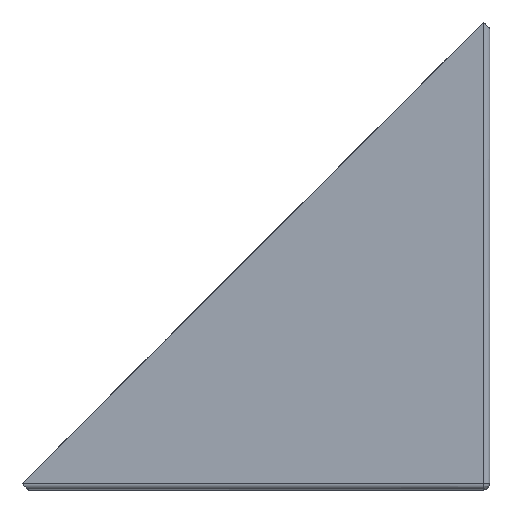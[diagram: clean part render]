
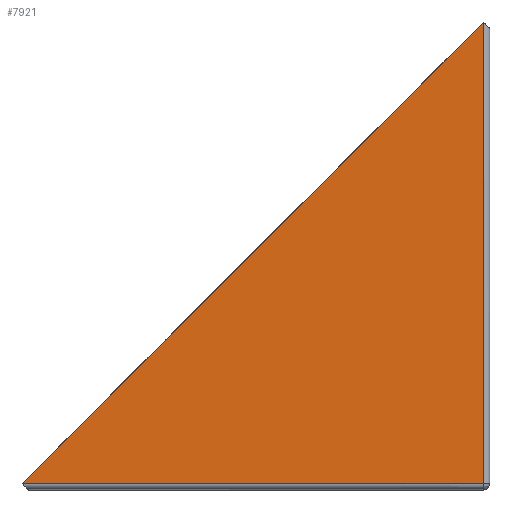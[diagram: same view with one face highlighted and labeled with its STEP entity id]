
A CAD part, top view. The second image highlights one B-rep face of the part: STEP entity #7921.
In plain terms, the highlighted planar face has unit normal (0, 0, 1).
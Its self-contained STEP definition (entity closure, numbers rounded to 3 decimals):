
#228 = CARTESIAN_POINT ( 'NONE',  ( -1., 1., 38. ) ) ;
#466 = VERTEX_POINT ( 'NONE', #7946 ) ;
#1240 = VECTOR ( 'NONE', #2245, 1000. ) ;
#1453 = DIRECTION ( 'NONE',  ( -1., 0., 0. ) ) ;
#1960 = VERTEX_POINT ( 'NONE', #228 ) ;
#2063 = EDGE_CURVE ( 'NONE', #1960, #6711, #10424, .T. ) ;
#2245 = DIRECTION ( 'NONE',  ( 0.707, -0.707, 0. ) ) ;
#2323 = LINE ( 'NONE', #9439, #4964 ) ;
#2674 = VERTEX_POINT ( 'NONE', #3654 ) ;
#2701 = ORIENTED_EDGE ( 'NONE', *, *, #3488, .F. ) ;
#2944 = DIRECTION ( 'NONE',  ( 0., -1., 0. ) ) ;
#3296 = LINE ( 'NONE', #10260, #1240 ) ;
#3488 = EDGE_CURVE ( 'NONE', #1960, #4201, #4578, .T. ) ;
#3548 = LINE ( 'NONE', #11058, #3830 ) ;
#3654 = CARTESIAN_POINT ( 'NONE',  ( -75.953, -73.953, 38. ) ) ;
#3830 = VECTOR ( 'NONE', #5786, 1000. ) ;
#3915 = ORIENTED_EDGE ( 'NONE', *, *, #7832, .F. ) ;
#4201 = VERTEX_POINT ( 'NONE', #4909 ) ;
#4309 = DIRECTION ( 'NONE',  ( -1., 0., 0. ) ) ;
#4578 = LINE ( 'NONE', #10950, #9297 ) ;
#4909 = CARTESIAN_POINT ( 'NONE',  ( -1., -73.953, 38. ) ) ;
#4964 = VECTOR ( 'NONE', #1453, 1000. ) ;
#5070 = CARTESIAN_POINT ( 'NONE',  ( 0., 0., 38. ) ) ;
#5168 = EDGE_CURVE ( 'NONE', #466, #2674, #3296, .T. ) ;
#5295 = CARTESIAN_POINT ( 'NONE',  ( -1.047, 1.047, 38. ) ) ;
#5699 = ORIENTED_EDGE ( 'NONE', *, *, #9199, .F. ) ;
#5786 = DIRECTION ( 'NONE',  ( 0.707, 0.707, 0. ) ) ;
#6711 = VERTEX_POINT ( 'NONE', #5295 ) ;
#6856 = ORIENTED_EDGE ( 'NONE', *, *, #5168, .T. ) ;
#6952 = PLANE ( 'NONE',  #9282 ) ;
#7059 = DIRECTION ( 'NONE',  ( -0.707, 0.707, 0. ) ) ;
#7173 = ORIENTED_EDGE ( 'NONE', *, *, #2063, .T. ) ;
#7832 = EDGE_CURVE ( 'NONE', #4201, #2674, #2323, .T. ) ;
#7865 = CARTESIAN_POINT ( 'NONE',  ( 0., -74.953, 38. ) ) ;
#7921 = ADVANCED_FACE ( 'NONE', ( #10649 ), #6952, .F. ) ;
#7946 = CARTESIAN_POINT ( 'NONE',  ( -76., -73.907, 38. ) ) ;
#8763 = VECTOR ( 'NONE', #7059, 1000. ) ;
#8792 = EDGE_LOOP ( 'NONE', ( #2701, #7173, #5699, #6856, #3915 ) ) ;
#9199 = EDGE_CURVE ( 'NONE', #466, #6711, #3548, .T. ) ;
#9282 = AXIS2_PLACEMENT_3D ( 'NONE', #7865, #9615, #4309 ) ;
#9297 = VECTOR ( 'NONE', #2944, 1000. ) ;
#9439 = CARTESIAN_POINT ( 'NONE',  ( 0., -73.953, 38. ) ) ;
#9615 = DIRECTION ( 'NONE',  ( 0., 0., -1. ) ) ;
#10260 = CARTESIAN_POINT ( 'NONE',  ( -74.953, -74.953, 38. ) ) ;
#10424 = LINE ( 'NONE', #5070, #8763 ) ;
#10649 = FACE_OUTER_BOUND ( 'NONE', #8792, .T. ) ;
#10950 = CARTESIAN_POINT ( 'NONE',  ( -1., -74.953, 38. ) ) ;
#11058 = CARTESIAN_POINT ( 'NONE',  ( -76., -73.907, 38. ) ) ;
